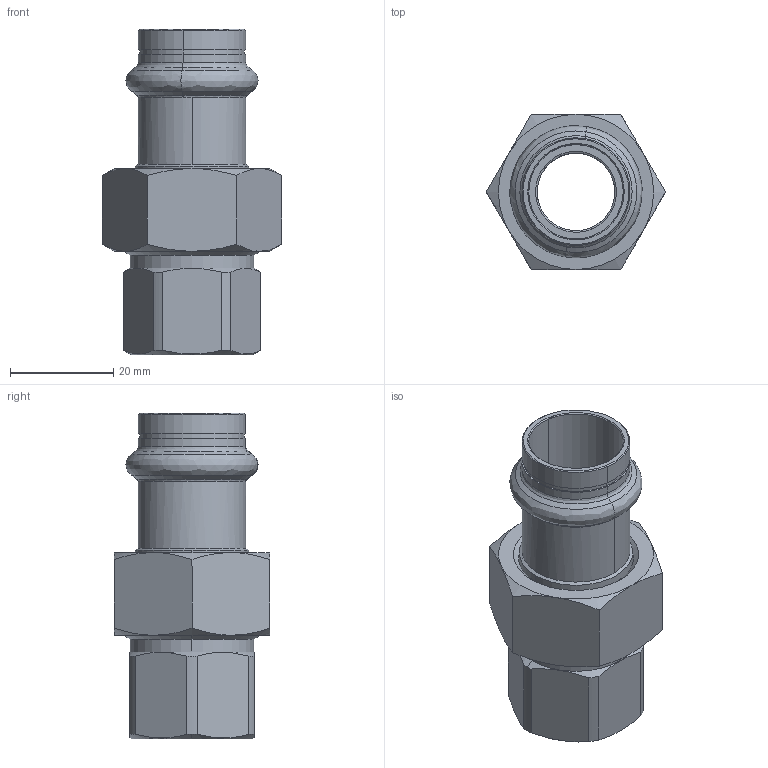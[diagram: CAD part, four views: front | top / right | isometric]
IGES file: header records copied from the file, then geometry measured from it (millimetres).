
Start section: Elysium IGES Interface
Global section: file name: F:\3d modellen sudo\S-Pr VP\SP6330GV\6330GVW1812.igs; native system: CoCreate Modeling 17.00A  17-Jun-2010; preprocessor: CoCreate IGES_3D V2.2; author: Unknown; organization: Unknown; date: 20130129.093010; units: millimetre
Bounding box: 34.64 x 30 x 63 mm (x, y, z)
Volume: 16390.7 mm3; surface area: 12633.8 mm2
Topology: 3 solids, 3 shells, 124 faces, 284 edges, 170 vertices
Faces by surface type: bspline 124
